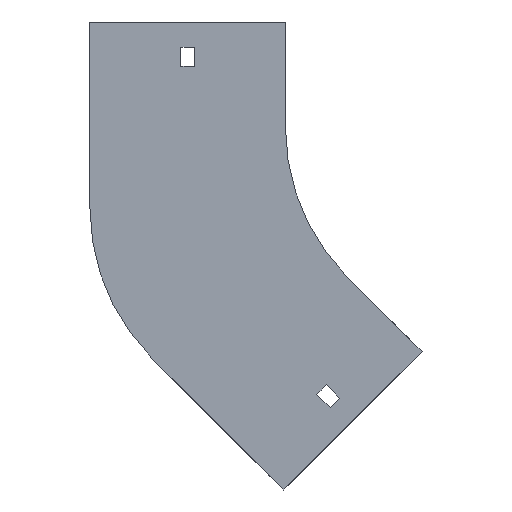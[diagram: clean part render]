
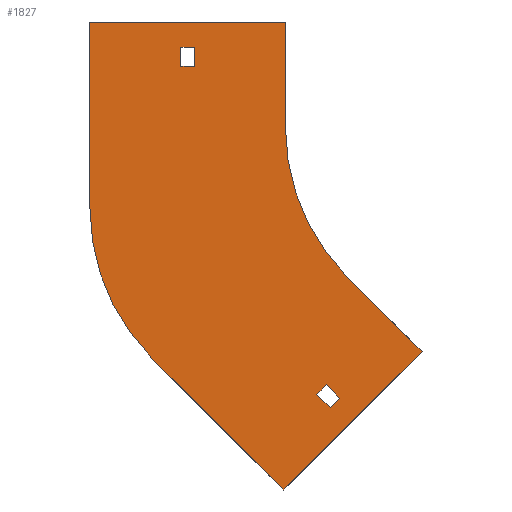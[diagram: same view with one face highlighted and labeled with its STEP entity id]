
A CAD part, front view. The second image highlights one B-rep face of the part: STEP entity #1827.
In plain terms, the highlighted planar face has unit normal (0, -1, 0).
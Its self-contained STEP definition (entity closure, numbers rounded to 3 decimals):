
#3 = EDGE_CURVE ( 'NONE', #483, #613, #653, .T. ) ;
#24 = VERTEX_POINT ( 'NONE', #1269 ) ;
#32 = VECTOR ( 'NONE', #366, 1000. ) ;
#33 = CARTESIAN_POINT ( 'NONE',  ( -80.61, 0., -121.622 ) ) ;
#36 = DIRECTION ( 'NONE',  ( 0., 1., 0. ) ) ;
#54 = EDGE_CURVE ( 'NONE', #613, #24, #1393, .T. ) ;
#63 = CARTESIAN_POINT ( 'NONE',  ( 0., 0., 0. ) ) ;
#68 = LINE ( 'NONE', #1939, #1410 ) ;
#79 = ORIENTED_EDGE ( 'NONE', *, *, #232, .F. ) ;
#91 = ORIENTED_EDGE ( 'NONE', *, *, #389, .T. ) ;
#94 = ORIENTED_EDGE ( 'NONE', *, *, #1217, .F. ) ;
#108 = CARTESIAN_POINT ( 'NONE',  ( -78.842, 0., -132.583 ) ) ;
#118 = CARTESIAN_POINT ( 'NONE',  ( -149.5, 0., 29. ) ) ;
#128 = VECTOR ( 'NONE', #341, 1000. ) ;
#136 = ORIENTED_EDGE ( 'NONE', *, *, #1904, .F. ) ;
#148 = VERTEX_POINT ( 'NONE', #1914 ) ;
#152 = DIRECTION ( 'NONE',  ( -0.707, 0., -0.707 ) ) ;
#169 = LINE ( 'NONE', #181, #128 ) ;
#181 = CARTESIAN_POINT ( 'NONE',  ( -70.711, 0., -70.711 ) ) ;
#195 = ORIENTED_EDGE ( 'NONE', *, *, #976, .F. ) ;
#223 = DIRECTION ( 'NONE',  ( 0., 0., 1. ) ) ;
#225 = EDGE_LOOP ( 'NONE', ( #1411, #1316, #79, #466, #1745, #136, #719, #1653 ) ) ;
#228 = CARTESIAN_POINT ( 'NONE',  ( -74.246, 0., -127.986 ) ) ;
#232 = EDGE_CURVE ( 'NONE', #701, #1466, #1662, .T. ) ;
#246 = CARTESIAN_POINT ( 'NONE',  ( -78.842, 0., -132.583 ) ) ;
#304 = EDGE_CURVE ( 'NONE', #1731, #992, #1721, .T. ) ;
#323 = EDGE_CURVE ( 'NONE', #1466, #148, #970, .T. ) ;
#337 = AXIS2_PLACEMENT_3D ( 'NONE', #63, #883, #698 ) ;
#339 = DIRECTION ( 'NONE',  ( 0.707, 0., -0.707 ) ) ;
#341 = DIRECTION ( 'NONE',  ( 0.707, 0., -0.707 ) ) ;
#366 = DIRECTION ( 'NONE',  ( 1., 0., 0. ) ) ;
#368 = VECTOR ( 'NONE', #1542, 1000. ) ;
#389 = EDGE_CURVE ( 'NONE', #992, #1283, #68, .T. ) ;
#394 = EDGE_LOOP ( 'NONE', ( #195, #1730, #764, #94 ) ) ;
#400 = VERTEX_POINT ( 'NONE', #1761 ) ;
#418 = VERTEX_POINT ( 'NONE', #246 ) ;
#423 = VERTEX_POINT ( 'NONE', #1330 ) ;
#437 = CARTESIAN_POINT ( 'NONE',  ( 0., 0., 0. ) ) ;
#462 = VECTOR ( 'NONE', #877, 1000. ) ;
#466 = ORIENTED_EDGE ( 'NONE', *, *, #1005, .F. ) ;
#483 = VERTEX_POINT ( 'NONE', #688 ) ;
#522 = CARTESIAN_POINT ( 'NONE',  ( -85.206, 0., -126.219 ) ) ;
#567 = DIRECTION ( 'NONE',  ( 0., -1., 0. ) ) ;
#574 = LINE ( 'NONE', #1185, #462 ) ;
#579 = CARTESIAN_POINT ( 'NONE',  ( -192.5, 0., -38.315 ) ) ;
#588 = EDGE_CURVE ( 'NONE', #1423, #423, #1509, .T. ) ;
#610 = DIRECTION ( 'NONE',  ( 0., 0., 1. ) ) ;
#613 = VERTEX_POINT ( 'NONE', #954 ) ;
#619 = EDGE_CURVE ( 'NONE', #1283, #1866, #1575, .T. ) ;
#637 = CARTESIAN_POINT ( 'NONE',  ( -149.5, 0., 29. ) ) ;
#649 = CARTESIAN_POINT ( 'NONE',  ( -149.5, 0., 38. ) ) ;
#653 = LINE ( 'NONE', #1293, #1136 ) ;
#655 = ORIENTED_EDGE ( 'NONE', *, *, #304, .T. ) ;
#663 = LINE ( 'NONE', #522, #679 ) ;
#679 = VECTOR ( 'NONE', #1530, 1000. ) ;
#688 = CARTESIAN_POINT ( 'NONE',  ( -100., 0., 50. ) ) ;
#698 = DIRECTION ( 'NONE',  ( 0., 0., -1. ) ) ;
#701 = VERTEX_POINT ( 'NONE', #1015 ) ;
#719 = ORIENTED_EDGE ( 'NONE', *, *, #54, .F. ) ;
#737 = VECTOR ( 'NONE', #830, 1000. ) ;
#757 = FACE_BOUND ( 'NONE', #1622, .T. ) ;
#764 = ORIENTED_EDGE ( 'NONE', *, *, #1310, .F. ) ;
#780 = CARTESIAN_POINT ( 'NONE',  ( -35.355, 0., -106.066 ) ) ;
#830 = DIRECTION ( 'NONE',  ( -1., 0., 0. ) ) ;
#874 = LINE ( 'NONE', #108, #1822 ) ;
#877 = DIRECTION ( 'NONE',  ( 1., 0., 0. ) ) ;
#883 = DIRECTION ( 'NONE',  ( 0., -1., 0. ) ) ;
#898 = CARTESIAN_POINT ( 'NONE',  ( -100.763, 0., -171.473 ) ) ;
#918 = EDGE_CURVE ( 'NONE', #982, #418, #1840, .T. ) ;
#954 = CARTESIAN_POINT ( 'NONE',  ( -100., 0., 0. ) ) ;
#965 = LINE ( 'NONE', #33, #368 ) ;
#970 = LINE ( 'NONE', #1121, #1142 ) ;
#976 = EDGE_CURVE ( 'NONE', #418, #1336, #874, .T. ) ;
#982 = VERTEX_POINT ( 'NONE', #1468 ) ;
#988 = VECTOR ( 'NONE', #152, 1000. ) ;
#992 = VERTEX_POINT ( 'NONE', #1029 ) ;
#1000 = ORIENTED_EDGE ( 'NONE', *, *, #1162, .T. ) ;
#1003 = DIRECTION ( 'NONE',  ( 0., 0., -1. ) ) ;
#1005 = EDGE_CURVE ( 'NONE', #423, #701, #1053, .T. ) ;
#1015 = CARTESIAN_POINT ( 'NONE',  ( -163.211, 0., -109.025 ) ) ;
#1029 = CARTESIAN_POINT ( 'NONE',  ( -143., 0., 38. ) ) ;
#1053 = LINE ( 'NONE', #898, #1261 ) ;
#1055 = FACE_OUTER_BOUND ( 'NONE', #225, .T. ) ;
#1097 = CARTESIAN_POINT ( 'NONE',  ( -85.206, 0., -126.219 ) ) ;
#1121 = CARTESIAN_POINT ( 'NONE',  ( -192.5, 0., -38.315 ) ) ;
#1122 = CARTESIAN_POINT ( 'NONE',  ( -149.5, 0., 29. ) ) ;
#1136 = VECTOR ( 'NONE', #1282, 1000. ) ;
#1142 = VECTOR ( 'NONE', #223, 1000. ) ;
#1162 = EDGE_CURVE ( 'NONE', #1866, #1731, #1473, .T. ) ;
#1163 = EDGE_CURVE ( 'NONE', #148, #483, #574, .T. ) ;
#1185 = CARTESIAN_POINT ( 'NONE',  ( -192.5, 0., 50. ) ) ;
#1217 = EDGE_CURVE ( 'NONE', #1336, #400, #965, .T. ) ;
#1261 = VECTOR ( 'NONE', #1367, 1000. ) ;
#1269 = CARTESIAN_POINT ( 'NONE',  ( -70.711, 0., -70.711 ) ) ;
#1278 = AXIS2_PLACEMENT_3D ( 'NONE', #437, #567, #1665 ) ;
#1282 = DIRECTION ( 'NONE',  ( 0., 0., -1. ) ) ;
#1283 = VERTEX_POINT ( 'NONE', #1860 ) ;
#1293 = CARTESIAN_POINT ( 'NONE',  ( -100., 0., 50. ) ) ;
#1310 = EDGE_CURVE ( 'NONE', #400, #982, #663, .T. ) ;
#1316 = ORIENTED_EDGE ( 'NONE', *, *, #323, .F. ) ;
#1330 = CARTESIAN_POINT ( 'NONE',  ( -100.763, 0., -171.473 ) ) ;
#1336 = VERTEX_POINT ( 'NONE', #228 ) ;
#1367 = DIRECTION ( 'NONE',  ( -0.707, 0., 0.707 ) ) ;
#1381 = CARTESIAN_POINT ( 'NONE',  ( -35.355, 0., -106.066 ) ) ;
#1389 = VECTOR ( 'NONE', #339, 1000. ) ;
#1393 = CIRCLE ( 'NONE', #337, 100. ) ;
#1410 = VECTOR ( 'NONE', #1003, 1000. ) ;
#1411 = ORIENTED_EDGE ( 'NONE', *, *, #1163, .F. ) ;
#1423 = VERTEX_POINT ( 'NONE', #1381 ) ;
#1466 = VERTEX_POINT ( 'NONE', #579 ) ;
#1468 = CARTESIAN_POINT ( 'NONE',  ( -85.206, 0., -126.219 ) ) ;
#1473 = LINE ( 'NONE', #118, #1826 ) ;
#1509 = LINE ( 'NONE', #780, #988 ) ;
#1514 = CARTESIAN_POINT ( 'NONE',  ( -92.5, 0., -38.315 ) ) ;
#1530 = DIRECTION ( 'NONE',  ( -0.707, 0., -0.707 ) ) ;
#1542 = DIRECTION ( 'NONE',  ( -0.707, 0., 0.707 ) ) ;
#1575 = LINE ( 'NONE', #1122, #737 ) ;
#1613 = CARTESIAN_POINT ( 'NONE',  ( -149.5, 0., 38. ) ) ;
#1622 = EDGE_LOOP ( 'NONE', ( #1000, #655, #91, #1780 ) ) ;
#1653 = ORIENTED_EDGE ( 'NONE', *, *, #3, .F. ) ;
#1656 = FACE_BOUND ( 'NONE', #394, .T. ) ;
#1662 = CIRCLE ( 'NONE', #1916, 100. ) ;
#1665 = DIRECTION ( 'NONE',  ( 0., 0., -1. ) ) ;
#1721 = LINE ( 'NONE', #649, #32 ) ;
#1730 = ORIENTED_EDGE ( 'NONE', *, *, #918, .F. ) ;
#1731 = VERTEX_POINT ( 'NONE', #1613 ) ;
#1745 = ORIENTED_EDGE ( 'NONE', *, *, #588, .F. ) ;
#1761 = CARTESIAN_POINT ( 'NONE',  ( -80.61, 0., -121.622 ) ) ;
#1768 = DIRECTION ( 'NONE',  ( 0.707, 0., 0.707 ) ) ;
#1780 = ORIENTED_EDGE ( 'NONE', *, *, #619, .T. ) ;
#1799 = PLANE ( 'NONE',  #1278 ) ;
#1822 = VECTOR ( 'NONE', #1768, 1000. ) ;
#1826 = VECTOR ( 'NONE', #1928, 1000. ) ;
#1827 = ADVANCED_FACE ( 'NONE', ( #757, #1055, #1656 ), #1799, .T. ) ;
#1840 = LINE ( 'NONE', #1097, #1389 ) ;
#1860 = CARTESIAN_POINT ( 'NONE',  ( -143., 0., 29. ) ) ;
#1866 = VERTEX_POINT ( 'NONE', #637 ) ;
#1904 = EDGE_CURVE ( 'NONE', #24, #1423, #169, .T. ) ;
#1914 = CARTESIAN_POINT ( 'NONE',  ( -192.5, 0., 50. ) ) ;
#1916 = AXIS2_PLACEMENT_3D ( 'NONE', #1514, #36, #610 ) ;
#1928 = DIRECTION ( 'NONE',  ( 0., 0., 1. ) ) ;
#1939 = CARTESIAN_POINT ( 'NONE',  ( -143., 0., 29. ) ) ;
